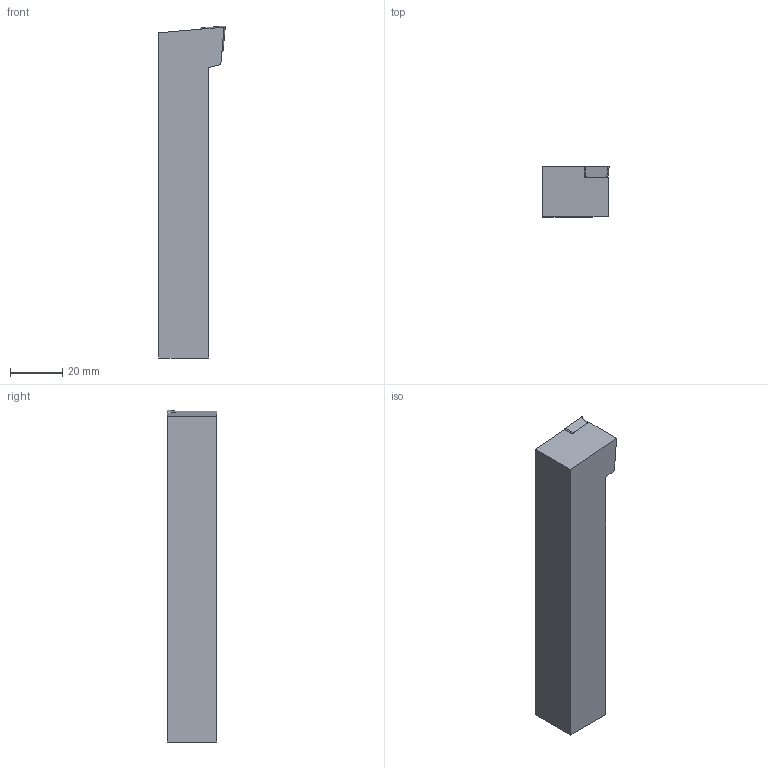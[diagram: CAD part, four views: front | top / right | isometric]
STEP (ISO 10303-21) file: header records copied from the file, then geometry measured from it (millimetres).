
FILE_DESCRIPTION (( 'STEP AP203' ), '1' );
FILE_NAME ('SCLCR12-3C-HAAS.STEP', '2020-11-06T06:43:58', ( '' ), ( '' ), 'SwSTEP 2.0', 'SolidWorks 2015', '' );
FILE_SCHEMA (( 'CONFIG_CONTROL_DESIGN' ));
Length unit declared in the file: millimetre
Products named in the file (4): SCLCR12-3C-HAAS; CCMT09T304_ル遽; SCLCR12-3C-HAAS_ル遽
Assembly tree (3 placements, depth 3):
  SCLCR12-3C-HAAS
    SCLCR12-3C-HAAS
      SCLCR12-3C-HAAS_ル遽
      CCMT09T304_ル遽
Bounding box: 25.4 x 19.05 x 127.07 mm (x, y, z)
Volume: 46893.7 mm3; surface area: 10951.6 mm2
Topology: 2 solids, 2 shells, 23 faces, 56 edges, 37 vertices
Faces by surface type: plane 17, cylinder 5, cone 1
Full cylindrical faces by diameter (mm): 3.4 x1
Entity records: 1077 total; most frequent: CARTESIAN_POINT 145, DIRECTION 109, ORIENTED_EDGE 108, EDGE_CURVE 54, LINE 43, VECTOR 43, VERTEX_POINT 37, PERSON_AND_ORGANIZATION 35
